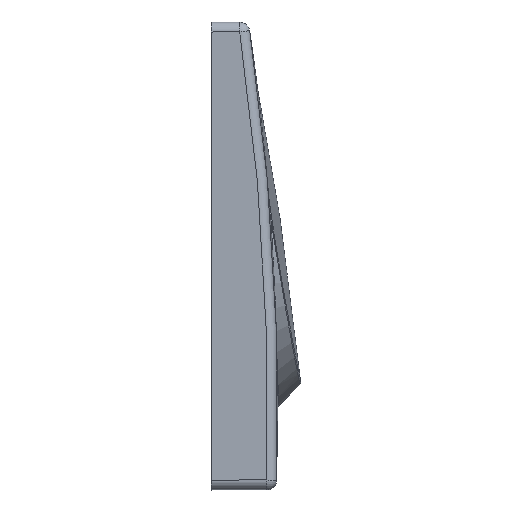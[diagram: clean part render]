
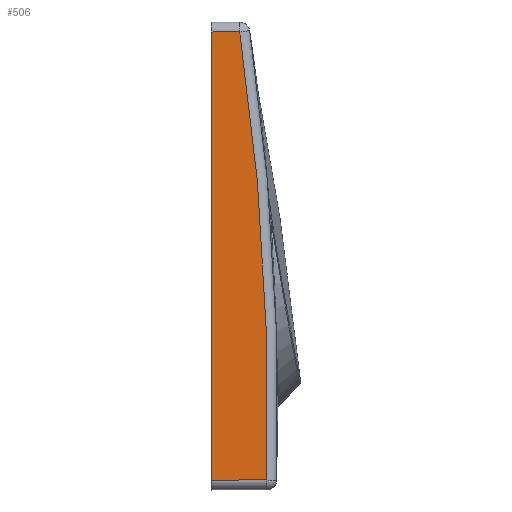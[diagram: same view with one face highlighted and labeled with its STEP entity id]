
A CAD part, left-side view. The second image highlights one B-rep face of the part: STEP entity #506.
In plain terms, the highlighted planar face has unit normal (-1, 0, 0).
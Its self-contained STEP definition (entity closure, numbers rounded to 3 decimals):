
#35=LINE('',#2204,#51);
#36=LINE('',#2206,#52);
#37=LINE('',#2207,#53);
#51=VECTOR('',#692,9.981);
#52=VECTOR('',#693,157.);
#53=VECTOR('',#694,19.348);
#103=FACE_OUTER_BOUND('',#140,.T.);
#140=EDGE_LOOP('',(#365,#366,#367,#368));
#173=CIRCLE('',#565,913.75);
#216=VERTEX_POINT('',#2171);
#217=VERTEX_POINT('',#2173);
#224=VERTEX_POINT('',#2203);
#225=VERTEX_POINT('',#2205);
#262=EDGE_CURVE('',#216,#217,#173,.T.);
#276=EDGE_CURVE('',#217,#224,#35,.T.);
#277=EDGE_CURVE('',#224,#225,#36,.T.);
#278=EDGE_CURVE('',#225,#216,#37,.T.);
#365=ORIENTED_EDGE('',*,*,#276,.T.);
#366=ORIENTED_EDGE('',*,*,#277,.T.);
#367=ORIENTED_EDGE('',*,*,#278,.T.);
#368=ORIENTED_EDGE('',*,*,#262,.T.);
#450=PLANE('',#579);
#506=ADVANCED_FACE('',(#103),#450,.T.);
#565=AXIS2_PLACEMENT_3D('',#2175,#655,#656);
#579=AXIS2_PLACEMENT_3D('',#2202,#690,#691);
#655=DIRECTION('center_axis',(-1.,0.,0.));
#656=DIRECTION('ref_axis',(0.,-1.,-0.026));
#690=DIRECTION('center_axis',(-1.,0.,0.));
#691=DIRECTION('ref_axis',(0.,-0.998,-0.064));
#692=DIRECTION('',(0.,1.,0.));
#693=DIRECTION('',(0.,0.,-1.));
#694=DIRECTION('',(0.,-1.,0.));
#2171=CARTESIAN_POINT('',(-123.,-19.422,-78.506));
#2173=CARTESIAN_POINT('',(-123.,-9.983,78.49));
#2175=CARTESIAN_POINT('Origin',(-123.,894.017,-54.639));
#2202=CARTESIAN_POINT('Origin',(-123.,-0.074,-78.515));
#2203=CARTESIAN_POINT('',(-123.,-0.002,78.485));
#2204=CARTESIAN_POINT('',(-123.,-9.983,78.49));
#2205=CARTESIAN_POINT('',(-123.,-0.074,-78.515));
#2206=CARTESIAN_POINT('',(-123.,-0.002,78.485));
#2207=CARTESIAN_POINT('',(-123.,-0.074,-78.515));
